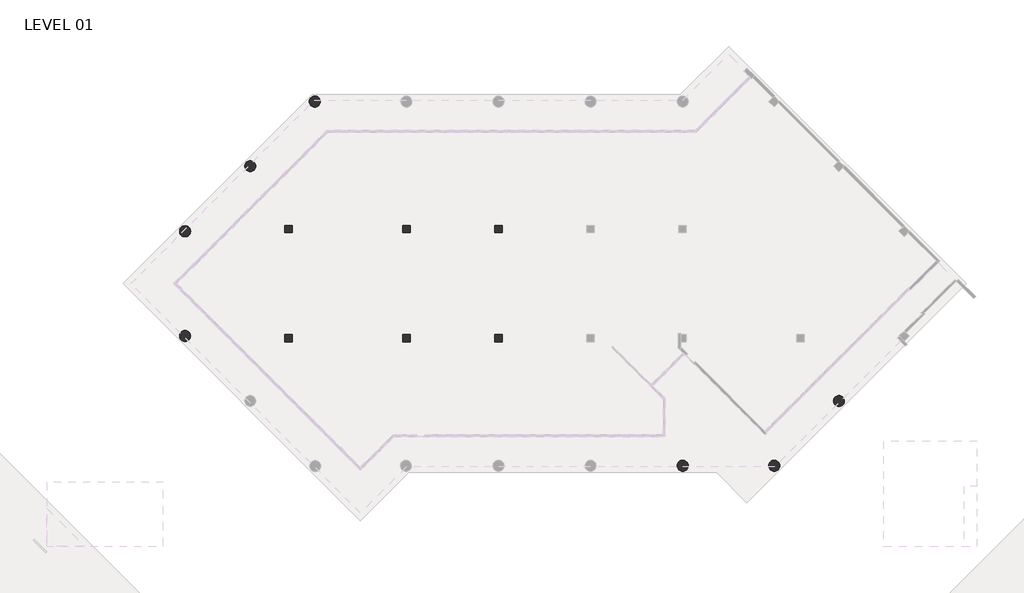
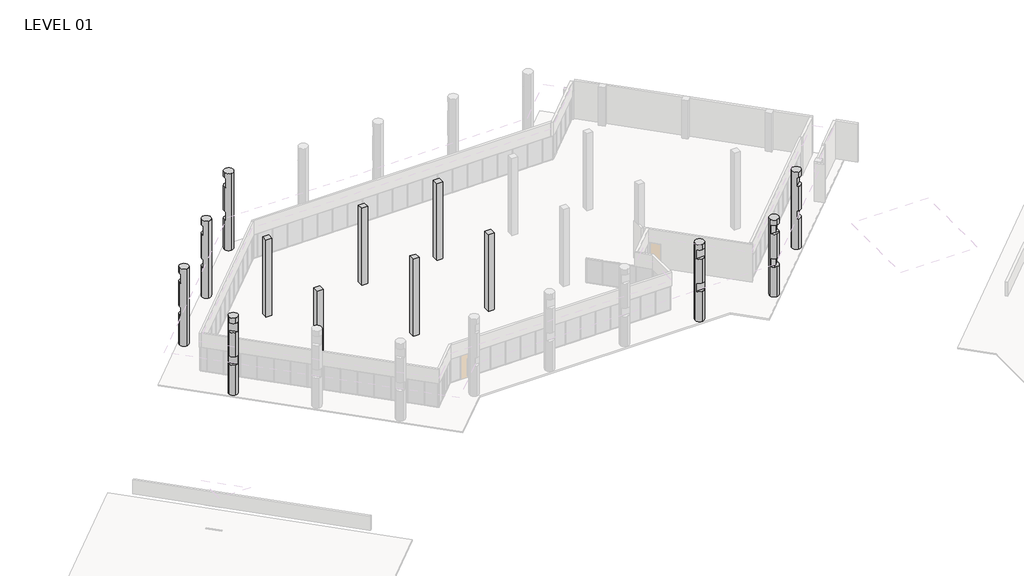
# One storey, part 23 of 24: 13 columns.
"""IFC4 building model written with IfcOpenShell, lengths in millimetres."""

from ifc_helpers import new_model, si_unit, frame, origin, place, context, project, spatial, circle_curve, transform, mapped, element, save
from ifc_brep_helpers import plane_surface, cylinder_surface, advanced_brep
from components import column_c64340cb

model = new_model("IFC4")

# Units and contexts
model_context = context("Model", 3, world=origin())
ifc_project = project(units=[si_unit("LENGTHUNIT", "METRE", prefix="MILLI")], contexts=[model_context])

# Site, building, storey
site = spatial("IfcSite", under=ifc_project)
building = spatial("IfcBuilding", under=site)
storey = spatial("IfcBuildingStorey", under=building, Name="LEVEL 01", Elevation=0.0)

# Columns
placement = place(None, origin())
column_shape = column_c64340cb(model_context)
element("IfcColumn", 1, ObjectType="Rectangular Column : 24\" x 24\"", at=placement, inside=storey, context=model_context, shape_type="MappedRepresentation", body=[
    mapped(column_shape, transform((8642.35, 109059.9023049, 0.0), x_axis=(-1.0, 0.0, 0.0), y_axis=(0.0, -1.0, 0.0), z_axis=(0.0, 0.0, 1.0))),
])
element("IfcColumn", 2, ObjectType="Rectangular Column : 24\" x 24\"", at=placement, inside=storey, context=model_context, shape_type="MappedRepresentation", body=[
    mapped(column_shape, transform((8642.35, 100023.8523049, 0.0), x_axis=(-1.0, 0.0, 0.0), y_axis=(0.0, -1.0, 0.0), z_axis=(0.0, 0.0, 1.0))),
])
element("IfcColumn", 3, ObjectType="Rectangular Column : 24\" x 24\"", at=placement, inside=storey, context=model_context, shape_type="MappedRepresentation", body=[
    mapped(column_shape, transform((18395.95, 109059.9023049, 0.0), x_axis=(-1.0, 0.0, 0.0), y_axis=(0.0, -1.0, 0.0), z_axis=(0.0, 0.0, 1.0))),
])
element("IfcColumn", 4, ObjectType="Rectangular Column : 24\" x 24\"", at=placement, inside=storey, context=model_context, shape_type="MappedRepresentation", body=[
    mapped(column_shape, transform((26015.95, 109059.9023049, 0.0), x_axis=(-1.0, 0.0, 0.0), y_axis=(0.0, -1.0, 0.0), z_axis=(0.0, 0.0, 1.0))),
])
element("IfcColumn", 5, ObjectType="Rectangular Column : 24\" x 24\"", at=placement, inside=storey, context=model_context, shape_type="MappedRepresentation", body=[
    mapped(column_shape, transform((26015.95, 100023.8523049, 0.0), x_axis=(-1.0, 0.0, 0.0), y_axis=(0.0, -1.0, 0.0), z_axis=(0.0, 0.0, 1.0))),
])
element("IfcColumn", 6, ObjectType="Rectangular Column : 24\" x 24\"", at=placement, inside=storey, context=model_context, shape_type="MappedRepresentation", body=[
    mapped(column_shape, transform((18395.95, 100023.8523049, 0.0), x_axis=(-1.0, 0.0, 0.0), y_axis=(0.0, -1.0, 0.0), z_axis=(0.0, 0.0, 1.0))),
])
element("IfcColumn", 7, ObjectType="Round Column : 36\" Diameter", at=placement, inside=storey, context=model_context, shape_type="AdvancedBrep", body=[
    advanced_brep(
    [(48376.6659021, 89457.4523049, 0.0), (49291.0659021, 89457.4523049, 0.0), (48833.8659021, 89000.2523049, 0.0), (48376.6659021, 89457.4523049, 8280.4), (49291.0659021, 89457.4523049, 8280.4), (49291.0659021, 89457.4523049, 7721.6), (49246.4289755, 89654.4892315, 7721.6), (49246.4289755, 89654.4892315, 6731.0), (49291.0659021, 89457.4523049, 6731.0), (49291.0659021, 89457.4523049, 4140.2), (49246.4289755, 89654.4892315, 4140.2), (49246.4289755, 89654.4892315, 3225.8), (49291.0659021, 89457.4523049, 3225.8), (49157.1551224, 89134.1630846, 3225.8), (48833.8659021, 89000.2523049, 3225.8), (48636.8289755, 89044.8892315, 3225.8), (48402.8136083, 89305.0523049, 3225.8), (48402.8136083, 89305.0523049, 4140.2), (48636.8289755, 89044.8892315, 4140.2), (48833.8659021, 89000.2523049, 4140.2), (48833.8659021, 89000.2523049, 6731.0), (48402.8136083, 89305.0523049, 6731.0), (48402.8136083, 89305.0523049, 7721.6), (48833.8659021, 89000.2523049, 7721.6), (48833.8659021, 89000.2523049, 8280.4), (48896.992049, 89305.0523049, 6731.0), (49264.9181959, 89305.0523049, 6731.0), (49264.9181959, 89305.0523049, 7721.6), (48896.992049, 89305.0523049, 7721.6), (49157.1551224, 89134.1630846, 6731.0), (49157.1551224, 89134.1630846, 7721.6), (48896.992049, 89305.0523049, 4140.2), (48896.992049, 89305.0523049, 3225.8), (49157.1551224, 89134.1630846, 4140.2)],
    [
        (0, 1, circle_curve(frame((48833.8659021, 89457.4523049, 0.0), z_axis=(0.0, 0.0, -1.0), x_axis=(-1.0, 0.0, 0.0)), 457.2)),
        (1, 2, circle_curve(frame((48833.8659021, 89457.4523049, 0.0), z_axis=(0.0, 0.0, -1.0), x_axis=(-1.0, 0.0, 0.0)), 457.2)),
        (2, 0, circle_curve(frame((48833.8659021, 89457.4523049, 0.0), z_axis=(0.0, 0.0, -1.0), x_axis=(-1.0, 0.0, 0.0)), 457.2)),
        (0, 3),
        (3, 4, circle_curve(frame((48833.8659021, 89457.4523049, 8280.4), z_axis=(0.0, 0.0, -1.0), x_axis=(-1.0, 0.0, 0.0)), 457.2)),
        (4, 5),
        (5, 6, circle_curve(frame((48833.8659021, 89457.4523049, 7721.6), z_axis=(0.0, 0.0, 1.0), x_axis=(-1.0, 0.0, 0.0)), 457.2)),
        (6, 7),
        (7, 8, circle_curve(frame((48833.8659021, 89457.4523049, 6731.0), z_axis=(0.0, 0.0, -1.0), x_axis=(-1.0, 0.0, 0.0)), 457.2)),
        (8, 9),
        (9, 10, circle_curve(frame((48833.8659021, 89457.4523049, 4140.2), z_axis=(0.0, 0.0, 1.0), x_axis=(-1.0, 0.0, 0.0)), 457.2)),
        (10, 11),
        (11, 12, circle_curve(frame((48833.8659021, 89457.4523049, 3225.8), z_axis=(0.0, 0.0, -1.0), x_axis=(-1.0, 0.0, 0.0)), 457.2)),
        (12, 1),
        (12, 13, circle_curve(frame((48833.8659021, 89457.4523049, 3225.8), z_axis=(0.0, 0.0, -1.0), x_axis=(-1.0, 0.0, 0.0)), 457.2)),
        (13, 14, circle_curve(frame((48833.8659021, 89457.4523049, 3225.8), z_axis=(0.0, 0.0, -1.0), x_axis=(-1.0, 0.0, 0.0)), 457.2)),
        (14, 2),
        (14, 15, circle_curve(frame((48833.8659021, 89457.4523049, 3225.8), z_axis=(0.0, 0.0, -1.0), x_axis=(-1.0, 0.0, 0.0)), 457.2)),
        (15, 16, circle_curve(frame((48833.8659021, 89457.4523049, 3225.8), z_axis=(0.0, 0.0, -1.0), x_axis=(-1.0, 0.0, 0.0)), 457.2)),
        (16, 17),
        (17, 18, circle_curve(frame((48833.8659021, 89457.4523049, 4140.2), z_axis=(0.0, 0.0, 1.0), x_axis=(-1.0, 0.0, 0.0)), 457.2)),
        (18, 19, circle_curve(frame((48833.8659021, 89457.4523049, 4140.2), z_axis=(0.0, 0.0, 1.0), x_axis=(-1.0, 0.0, 0.0)), 457.2)),
        (19, 20),
        (20, 21, circle_curve(frame((48833.8659021, 89457.4523049, 6731.0), z_axis=(0.0, 0.0, -1.0), x_axis=(-1.0, 0.0, 0.0)), 457.2)),
        (21, 22),
        (22, 23, circle_curve(frame((48833.8659021, 89457.4523049, 7721.6), z_axis=(0.0, 0.0, 1.0), x_axis=(-1.0, 0.0, 0.0)), 457.2)),
        (23, 24),
        (24, 3, circle_curve(frame((48833.8659021, 89457.4523049, 8280.4), z_axis=(0.0, 0.0, -1.0), x_axis=(-1.0, 0.0, 0.0)), 457.2)),
        (24, 4, circle_curve(frame((48833.8659021, 89457.4523049, 8280.4), z_axis=(0.0, 0.0, 1.0), x_axis=(-1.0, 0.0, 0.0)), 457.2)),
        (7, 25),
        (25, 26),
        (26, 8, circle_curve(frame((48833.8659021, 89457.4523049, 6731.0), z_axis=(0.0, 0.0, 1.0), x_axis=(-1.0, 0.0, 0.0)), 457.2)),
        (5, 27, circle_curve(frame((48833.8659021, 89457.4523049, 7721.6), z_axis=(0.0, 0.0, -1.0), x_axis=(-1.0, 0.0, 0.0)), 457.2)),
        (27, 28),
        (28, 6),
        (21, 25),
        (25, 28),
        (28, 22),
        (29, 26, circle_curve(frame((48833.8659021, 89457.4523049, 6731.0), z_axis=(0.0, 0.0, 1.0), x_axis=(-1.0, 0.0, 0.0)), 457.2)),
        (20, 29, circle_curve(frame((48833.8659021, 89457.4523049, 6731.0), z_axis=(0.0, 0.0, 1.0), x_axis=(-1.0, 0.0, 0.0)), 457.2)),
        (27, 30, circle_curve(frame((48833.8659021, 89457.4523049, 7721.6), z_axis=(0.0, 0.0, -1.0), x_axis=(-1.0, 0.0, 0.0)), 457.2)),
        (30, 23, circle_curve(frame((48833.8659021, 89457.4523049, 7721.6), z_axis=(0.0, 0.0, -1.0), x_axis=(-1.0, 0.0, 0.0)), 457.2)),
        (10, 31),
        (31, 32),
        (32, 11),
        (32, 15),
        (9, 33, circle_curve(frame((48833.8659021, 89457.4523049, 4140.2), z_axis=(0.0, 0.0, -1.0), x_axis=(-1.0, 0.0, 0.0)), 457.2)),
        (33, 19, circle_curve(frame((48833.8659021, 89457.4523049, 4140.2), z_axis=(0.0, 0.0, -1.0), x_axis=(-1.0, 0.0, 0.0)), 457.2)),
        (18, 31),
        (31, 17),
        (16, 32),
    ],
    [
        plane_surface(frame((48376.6659021, 89457.4523049, 0.0), z_axis=(0.0, 0.0, -1.0), x_axis=(0.0, 1.0, 0.0))),
        cylinder_surface(frame((48833.8659021, 89457.4523049, 0.0), z_axis=(0.0, 0.0, 1.0), x_axis=(-1.0, 0.0, 0.0)), 457.2),
        plane_surface(frame((48376.6659021, 89457.4523049, 8280.4), z_axis=(0.0, 0.0, 1.0), x_axis=(0.0, -1.0, 0.0))),
        plane_surface(frame((64241.5801224, 104649.6403784, 6731.0), z_axis=(0.0, 0.0, 1.0000000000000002), x_axis=(0.7071067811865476, -0.7071067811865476, 0.0))),
        plane_surface(frame((48852.3551224, 89260.4153784, 7721.6), z_axis=(0.0, 0.0, -1.0000000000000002), x_axis=(0.7071067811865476, -0.7071067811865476, 0.0))),
        plane_surface(frame((44118.4383763, 89305.0523049, 6731.0), z_axis=(0.0, -1.0, 0.0), x_axis=(-1.0, 0.0, 0.0))),
        plane_surface(frame((48960.1181959, 89305.0523049, 6731.0), z_axis=(0.0, 0.0, 1.0), x_axis=(0.0, -1.0, 0.0))),
        plane_surface(frame((18480.1181959, 89305.0523049, 7721.6), z_axis=(0.0, 0.0, -1.0), x_axis=(0.0, -1.0, 0.0))),
        plane_surface(frame((52584.04029, 92992.1005459, 3225.8), z_axis=(0.707106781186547, -0.7071067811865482, 0.0), x_axis=(-0.7071067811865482, -0.707106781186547, 0.0))),
        plane_surface(frame((59400.4528286, 99808.5130846, 3225.8), z_axis=(0.0, 0.0, 1.0000000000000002), x_axis=(0.7071067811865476, -0.7071067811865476, 0.0))),
        plane_surface(frame((46463.0782861, 86871.1385421, 4140.2), z_axis=(0.0, 0.0, -1.0000000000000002), x_axis=(0.7071067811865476, -0.7071067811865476, 0.0))),
        plane_surface(frame((44118.4383763, 89305.0523049, 3225.8), z_axis=(0.0, -1.0, 0.0), x_axis=(-1.0, 0.0, 0.0))),
        plane_surface(frame((48960.1181959, 89305.0523049, 3225.8), z_axis=(0.0, 0.0, 1.0), x_axis=(0.0, -1.0, 0.0))),
        plane_surface(frame((18480.1181959, 89305.0523049, 4140.2), z_axis=(0.0, 0.0, -1.0), x_axis=(0.0, -1.0, 0.0))),
        plane_surface(frame((64239.4011469, 104647.4614029, 6731.0), z_axis=(0.7071067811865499, -0.7071067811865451, 0.0), x_axis=(-0.7071067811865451, -0.7071067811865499, 0.0))),
    ],
    [
        (0, [[1, 2, 3]]),
        (1, [[-1, 4, 5, 6, 7, 8, 9, 10, 11, 12, 13, 14]]),
        (1, [[-2, -14, 15, 16, 17]]),
        (1, [[-3, -17, 18, 19, 20, 21, 22, 23, 24, 25, 26, 27, 28, -4]]),
        (2, [[-5, -28, 29]]),
        (3, [[-9, 30, 31, 32]]),
        (4, [[-7, 33, 34, 35]]),
        (5, [[-25, 36, 37, 38]]),
        (6, [[39, -31, -36, -24, 40]]),
        (7, [[41, 42, -26, -38, -34]]),
        (1, [[-29, -27, -42, -41, -33, -6]]),
        (8, [[-12, 43, 44, 45]]),
        (9, [[-13, -45, 46, -18, -16, -15]]),
        (10, [[-11, 47, 48, -22, 49, -43]]),
        (1, [[-32, -39, -40, -23, -48, -47, -10]]),
        (11, [[50, -20, 51, -44]]),
        (12, [[-51, -19, -46]]),
        (13, [[-50, -49, -21]]),
        (14, [[-35, -37, -30, -8]]),
    ],
),
])
element("IfcColumn", 8, ObjectType="Round Column : 36\" Diameter", at=placement, inside=storey, context=model_context, shape_type="AdvancedBrep", body=[
    advanced_brep(
    [(40798.75, 89457.4523049, 0.0), (41713.15, 89457.4523049, 0.0), (41255.95, 89000.2523049, 0.0), (40798.75, 89457.4523049, 8280.4), (41713.15, 89457.4523049, 8280.4), (41255.95, 89000.2523049, 8280.4), (41255.95, 89000.2523049, 7721.6), (41687.0022938, 89305.0523049, 7721.6), (41687.0022938, 89305.0523049, 6731.0), (41255.95, 89000.2523049, 6731.0), (41255.95, 89000.2523049, 4140.2), (41687.0022938, 89305.0523049, 4140.2), (41687.0022938, 89305.0523049, 3225.8), (41255.95, 89000.2523049, 3225.8), (40824.8977062, 89305.0523049, 3225.8), (40824.8977062, 89305.0523049, 4140.2), (40824.8977062, 89305.0523049, 6731.0), (40824.8977062, 89305.0523049, 7721.6)],
    [
        (0, 1, circle_curve(frame((41255.95, 89457.4523049, 0.0), z_axis=(0.0, 0.0, -1.0), x_axis=(-1.0, 0.0, 0.0)), 457.2)),
        (1, 2, circle_curve(frame((41255.95, 89457.4523049, 0.0), z_axis=(0.0, 0.0, -1.0), x_axis=(-1.0, 0.0, 0.0)), 457.2)),
        (2, 0, circle_curve(frame((41255.95, 89457.4523049, 0.0), z_axis=(0.0, 0.0, -1.0), x_axis=(-1.0, 0.0, 0.0)), 457.2)),
        (0, 3),
        (3, 4, circle_curve(frame((41255.95, 89457.4523049, 8280.4), z_axis=(0.0, 0.0, -1.0), x_axis=(-1.0, 0.0, 0.0)), 457.2)),
        (4, 1),
        (4, 5, circle_curve(frame((41255.95, 89457.4523049, 8280.4), z_axis=(0.0, 0.0, -1.0), x_axis=(-1.0, 0.0, 0.0)), 457.2)),
        (5, 6),
        (6, 7, circle_curve(frame((41255.95, 89457.4523049, 7721.6), z_axis=(0.0, 0.0, 1.0), x_axis=(-1.0, 0.0, 0.0)), 457.2)),
        (7, 8),
        (8, 9, circle_curve(frame((41255.95, 89457.4523049, 6731.0), z_axis=(0.0, 0.0, -1.0), x_axis=(-1.0, 0.0, 0.0)), 457.2)),
        (9, 10),
        (10, 11, circle_curve(frame((41255.95, 89457.4523049, 4140.2), z_axis=(0.0, 0.0, 1.0), x_axis=(-1.0, 0.0, 0.0)), 457.2)),
        (11, 12),
        (12, 13, circle_curve(frame((41255.95, 89457.4523049, 3225.8), z_axis=(0.0, 0.0, -1.0), x_axis=(-1.0, 0.0, 0.0)), 457.2)),
        (13, 2),
        (13, 14, circle_curve(frame((41255.95, 89457.4523049, 3225.8), z_axis=(0.0, 0.0, -1.0), x_axis=(-1.0, 0.0, 0.0)), 457.2)),
        (14, 15),
        (15, 10, circle_curve(frame((41255.95, 89457.4523049, 4140.2), z_axis=(0.0, 0.0, 1.0), x_axis=(-1.0, 0.0, 0.0)), 457.2)),
        (9, 16, circle_curve(frame((41255.95, 89457.4523049, 6731.0), z_axis=(0.0, 0.0, -1.0), x_axis=(-1.0, 0.0, 0.0)), 457.2)),
        (16, 17),
        (17, 6, circle_curve(frame((41255.95, 89457.4523049, 7721.6), z_axis=(0.0, 0.0, 1.0), x_axis=(-1.0, 0.0, 0.0)), 457.2)),
        (5, 3, circle_curve(frame((41255.95, 89457.4523049, 8280.4), z_axis=(0.0, 0.0, -1.0), x_axis=(-1.0, 0.0, 0.0)), 457.2)),
        (11, 15),
        (14, 12),
        (7, 17),
        (16, 8),
    ],
    [
        plane_surface(frame((40798.75, 89457.4523049, 0.0), z_axis=(0.0, 0.0, -1.0), x_axis=(0.0, 1.0, 0.0))),
        cylinder_surface(frame((41255.95, 89457.4523049, 0.0), z_axis=(0.0, 0.0, 1.0), x_axis=(-1.0, 0.0, 0.0)), 457.2),
        plane_surface(frame((40798.75, 89457.4523049, 8280.4), z_axis=(0.0, 0.0, 1.0), x_axis=(0.0, -1.0, 0.0))),
        plane_surface(frame((44118.4383763, 89305.0523049, 3225.8), z_axis=(0.0, -1.0, 0.0), x_axis=(-1.0, 0.0, 0.0))),
        plane_surface(frame((48960.1181959, 89305.0523049, 3225.8), z_axis=(0.0, 0.0, 1.0), x_axis=(0.0, -1.0, 0.0))),
        plane_surface(frame((18480.1181959, 89305.0523049, 4140.2), z_axis=(0.0, 0.0, -1.0), x_axis=(0.0, -1.0, 0.0))),
        plane_surface(frame((44118.4383763, 89305.0523049, 6731.0), z_axis=(0.0, -1.0, 0.0), x_axis=(-1.0, 0.0, 0.0))),
        plane_surface(frame((48960.1181959, 89305.0523049, 6731.0), z_axis=(0.0, 0.0, 1.0), x_axis=(0.0, -1.0, 0.0))),
        plane_surface(frame((18480.1181959, 89305.0523049, 7721.6), z_axis=(0.0, 0.0, -1.0), x_axis=(0.0, -1.0, 0.0))),
    ],
    [
        (0, [[1, 2, 3]]),
        (1, [[-1, 4, 5, 6]]),
        (1, [[-2, -6, 7, 8, 9, 10, 11, 12, 13, 14, 15, 16]]),
        (1, [[-3, -16, 17, 18, 19, -12, 20, 21, 22, -8, 23, -4]]),
        (2, [[-5, -23, -7]]),
        (3, [[-14, 24, -18, 25]]),
        (4, [[-15, -25, -17]]),
        (5, [[-13, -19, -24]]),
        (6, [[26, -21, 27, -10]]),
        (7, [[-27, -20, -11]]),
        (8, [[-26, -9, -22]]),
    ],
),
])
element("IfcColumn", 9, ObjectType="Round Column : 36\" Diameter", at=placement, inside=storey, context=model_context, shape_type="AdvancedBrep", body=[
    advanced_brep(
    [(-385.357951, 100203.6443539, 0.0), (529.042049, 100203.6443539, 0.0), (71.842049, 99746.4443539, 0.0), (-385.357951, 100203.6443539, 3225.8), (-340.7210245, 100400.6812804, 3225.8), (-340.7210245, 100400.6812804, 4140.2), (-385.357951, 100203.6443539, 4140.2), (-385.357951, 100203.6443539, 6731.0), (-340.7210245, 100400.6812804, 6731.0), (-340.7210245, 100400.6812804, 7721.6), (-385.357951, 100203.6443539, 7721.6), (-385.357951, 100203.6443539, 8280.4), (529.042049, 100203.6443539, 8280.4), (71.842049, 99746.4443539, 8280.4), (71.842049, 99746.4443539, 7721.6), (268.8789755, 99791.0812804, 7721.6), (268.8789755, 99791.0812804, 6731.0), (71.842049, 99746.4443539, 6731.0), (71.842049, 99746.4443539, 4140.2), (268.8789755, 99791.0812804, 4140.2), (268.8789755, 99791.0812804, 3225.8), (71.842049, 99746.4443539, 3225.8), (-251.4471714, 99880.3551335, 3225.8), (-251.4471714, 99880.3551335, 6731.0), (-251.4471714, 99880.3551335, 7721.6), (-251.4471714, 99880.3551335, 4140.2)],
    [
        (0, 1, circle_curve(frame((71.842049, 100203.6443539, 0.0), z_axis=(0.0, 0.0, -1.0), x_axis=(-1.0, 0.0, 0.0)), 457.2)),
        (1, 2, circle_curve(frame((71.842049, 100203.6443539, 0.0), z_axis=(0.0, 0.0, -1.0), x_axis=(-1.0, 0.0, 0.0)), 457.2)),
        (2, 0, circle_curve(frame((71.842049, 100203.6443539, 0.0), z_axis=(0.0, 0.0, -1.0), x_axis=(-1.0, 0.0, 0.0)), 457.2)),
        (0, 3),
        (3, 4, circle_curve(frame((71.842049, 100203.6443539, 3225.8), z_axis=(0.0, 0.0, -1.0), x_axis=(-1.0, 0.0, 0.0)), 457.2)),
        (4, 5),
        (5, 6, circle_curve(frame((71.842049, 100203.6443539, 4140.2), z_axis=(0.0, 0.0, 1.0), x_axis=(-1.0, 0.0, 0.0)), 457.2)),
        (6, 7),
        (7, 8, circle_curve(frame((71.842049, 100203.6443539, 6731.0), z_axis=(0.0, 0.0, -1.0), x_axis=(-1.0, 0.0, 0.0)), 457.2)),
        (8, 9),
        (9, 10, circle_curve(frame((71.842049, 100203.6443539, 7721.6), z_axis=(0.0, 0.0, 1.0), x_axis=(-1.0, 0.0, 0.0)), 457.2)),
        (10, 11),
        (11, 12, circle_curve(frame((71.842049, 100203.6443539, 8280.4), z_axis=(0.0, 0.0, -1.0), x_axis=(-1.0, 0.0, 0.0)), 457.2)),
        (12, 1),
        (12, 13, circle_curve(frame((71.842049, 100203.6443539, 8280.4), z_axis=(0.0, 0.0, -1.0), x_axis=(-1.0, 0.0, 0.0)), 457.2)),
        (13, 14),
        (14, 15, circle_curve(frame((71.842049, 100203.6443539, 7721.6), z_axis=(0.0, 0.0, 1.0), x_axis=(-1.0, 0.0, 0.0)), 457.2)),
        (15, 16),
        (16, 17, circle_curve(frame((71.842049, 100203.6443539, 6731.0), z_axis=(0.0, 0.0, -1.0), x_axis=(-1.0, 0.0, 0.0)), 457.2)),
        (17, 18),
        (18, 19, circle_curve(frame((71.842049, 100203.6443539, 4140.2), z_axis=(0.0, 0.0, 1.0), x_axis=(-1.0, 0.0, 0.0)), 457.2)),
        (19, 20),
        (20, 21, circle_curve(frame((71.842049, 100203.6443539, 3225.8), z_axis=(0.0, 0.0, -1.0), x_axis=(-1.0, 0.0, 0.0)), 457.2)),
        (21, 2),
        (21, 22, circle_curve(frame((71.842049, 100203.6443539, 3225.8), z_axis=(0.0, 0.0, -1.0), x_axis=(-1.0, 0.0, 0.0)), 457.2)),
        (22, 3, circle_curve(frame((71.842049, 100203.6443539, 3225.8), z_axis=(0.0, 0.0, -1.0), x_axis=(-1.0, 0.0, 0.0)), 457.2)),
        (11, 13, circle_curve(frame((71.842049, 100203.6443539, 8280.4), z_axis=(0.0, 0.0, 1.0), x_axis=(-1.0, 0.0, 0.0)), 457.2)),
        (15, 9),
        (8, 16),
        (7, 23, circle_curve(frame((71.842049, 100203.6443539, 6731.0), z_axis=(0.0, 0.0, 1.0), x_axis=(-1.0, 0.0, 0.0)), 457.2)),
        (23, 17, circle_curve(frame((71.842049, 100203.6443539, 6731.0), z_axis=(0.0, 0.0, 1.0), x_axis=(-1.0, 0.0, 0.0)), 457.2)),
        (14, 24, circle_curve(frame((71.842049, 100203.6443539, 7721.6), z_axis=(0.0, 0.0, -1.0), x_axis=(-1.0, 0.0, 0.0)), 457.2)),
        (24, 10, circle_curve(frame((71.842049, 100203.6443539, 7721.6), z_axis=(0.0, 0.0, -1.0), x_axis=(-1.0, 0.0, 0.0)), 457.2)),
        (19, 5),
        (4, 20),
        (18, 25, circle_curve(frame((71.842049, 100203.6443539, 4140.2), z_axis=(0.0, 0.0, -1.0), x_axis=(-1.0, 0.0, 0.0)), 457.2)),
        (25, 6, circle_curve(frame((71.842049, 100203.6443539, 4140.2), z_axis=(0.0, 0.0, -1.0), x_axis=(-1.0, 0.0, 0.0)), 457.2)),
    ],
    [
        plane_surface(frame((-385.357951, 100203.6443539, 0.0), z_axis=(0.0, 0.0, -1.0), x_axis=(0.0, 1.0, 0.0))),
        cylinder_surface(frame((71.842049, 100203.6443539, 0.0), z_axis=(0.0, 0.0, 1.0), x_axis=(-1.0, 0.0, 0.0)), 457.2),
        plane_surface(frame((-385.357951, 100203.6443539, 8280.4), z_axis=(0.0, 0.0, 1.0), x_axis=(0.0, -1.0, 0.0))),
        plane_surface(frame((16685.9628061, 83373.9974499, 6731.0), z_axis=(-0.7071067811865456, -0.7071067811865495, 0.0), x_axis=(-0.7071067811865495, 0.7071067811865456, 0.0))),
        plane_surface(frame((14693.7130735, 85366.2471825, 6731.0), z_axis=(0.0, 0.0, 1.0000000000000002), x_axis=(-0.707106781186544, -0.7071067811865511, 0.0))),
        plane_surface(frame((-4589.6801224, 104649.6403784, 7721.6), z_axis=(0.0, 0.0, -1.0000000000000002), x_axis=(-0.707106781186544, -0.7071067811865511, 0.0))),
        plane_surface(frame((14801.4761469, 85258.484109, 3225.8), z_axis=(-0.7071067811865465, -0.7071067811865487, 0.0), x_axis=(-0.7071067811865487, 0.7071067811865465, 0.0))),
        plane_surface(frame((10955.5551224, 89104.4051335, 3225.8), z_axis=(0.0, 0.0, 1.0000000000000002), x_axis=(-0.707106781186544, -0.7071067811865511, 0.0))),
        plane_surface(frame((-4589.6801224, 104649.6403784, 4140.2), z_axis=(0.0, 0.0, -1.0000000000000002), x_axis=(-0.7071067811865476, -0.7071067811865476, 0.0))),
    ],
    [
        (0, [[1, 2, 3]]),
        (1, [[-1, 4, 5, 6, 7, 8, 9, 10, 11, 12, 13, 14]]),
        (1, [[-2, -14, 15, 16, 17, 18, 19, 20, 21, 22, 23, 24]]),
        (1, [[-3, -24, 25, 26, -4]]),
        (2, [[-13, 27, -15]]),
        (3, [[28, -10, 29, -18]]),
        (4, [[-9, 30, 31, -19, -29]]),
        (5, [[-11, -28, -17, 32, 33]]),
        (1, [[-27, -12, -33, -32, -16]]),
        (6, [[34, -6, 35, -22]]),
        (7, [[-35, -5, -26, -25, -23]]),
        (8, [[-34, -21, 36, 37, -7]]),
        (1, [[-31, -30, -8, -37, -36, -20]]),
    ],
),
])
element("IfcColumn", 10, ObjectType="Round Column : 36\" Diameter", at=placement, inside=storey, context=model_context, shape_type="AdvancedBrep", body=[
    advanced_brep(
    [(-385.357951, 108880.110256, 0.0), (529.042049, 108880.110256, 0.0), (71.842049, 108422.910256, 0.0), (-385.357951, 108880.110256, 3225.8), (-251.4471714, 109203.3994763, 3225.8), (268.8789755, 109292.6733294, 3225.8), (268.8789755, 109292.6733294, 4140.2), (-251.4471714, 109203.3994763, 4140.2), (-385.357951, 108880.110256, 4140.2), (-385.357951, 108880.110256, 6731.0), (-251.4471714, 109203.3994763, 6731.0), (268.8789755, 109292.6733294, 6731.0), (268.8789755, 109292.6733294, 7721.6), (-251.4471714, 109203.3994763, 7721.6), (-385.357951, 108880.110256, 7721.6), (-385.357951, 108880.110256, 8280.4), (529.042049, 108880.110256, 8280.4), (71.842049, 108422.910256, 8280.4), (-340.7210245, 108683.0733294, 7721.6), (-340.7210245, 108683.0733294, 6731.0), (-340.7210245, 108683.0733294, 4140.2), (-340.7210245, 108683.0733294, 3225.8)],
    [
        (0, 1, circle_curve(frame((71.842049, 108880.110256, 0.0), z_axis=(0.0, 0.0, -1.0), x_axis=(-1.0, 0.0, 0.0)), 457.2)),
        (1, 2, circle_curve(frame((71.842049, 108880.110256, 0.0), z_axis=(0.0, 0.0, -1.0), x_axis=(-1.0, 0.0, 0.0)), 457.2)),
        (2, 0, circle_curve(frame((71.842049, 108880.110256, 0.0), z_axis=(0.0, 0.0, -1.0), x_axis=(-1.0, 0.0, 0.0)), 457.2)),
        (0, 3),
        (3, 4, circle_curve(frame((71.842049, 108880.110256, 3225.8), z_axis=(0.0, 0.0, -1.0), x_axis=(-1.0, 0.0, 0.0)), 457.2)),
        (4, 5, circle_curve(frame((71.842049, 108880.110256, 3225.8), z_axis=(0.0, 0.0, -1.0), x_axis=(-1.0, 0.0, 0.0)), 457.2)),
        (5, 6),
        (6, 7, circle_curve(frame((71.842049, 108880.110256, 4140.2), z_axis=(0.0, 0.0, 1.0), x_axis=(-1.0, 0.0, 0.0)), 457.2)),
        (7, 8, circle_curve(frame((71.842049, 108880.110256, 4140.2), z_axis=(0.0, 0.0, 1.0), x_axis=(-1.0, 0.0, 0.0)), 457.2)),
        (8, 9),
        (9, 10, circle_curve(frame((71.842049, 108880.110256, 6731.0), z_axis=(0.0, 0.0, -1.0), x_axis=(-1.0, 0.0, 0.0)), 457.2)),
        (10, 11, circle_curve(frame((71.842049, 108880.110256, 6731.0), z_axis=(0.0, 0.0, -1.0), x_axis=(-1.0, 0.0, 0.0)), 457.2)),
        (11, 12),
        (12, 13, circle_curve(frame((71.842049, 108880.110256, 7721.6), z_axis=(0.0, 0.0, 1.0), x_axis=(-1.0, 0.0, 0.0)), 457.2)),
        (13, 14, circle_curve(frame((71.842049, 108880.110256, 7721.6), z_axis=(0.0, 0.0, 1.0), x_axis=(-1.0, 0.0, 0.0)), 457.2)),
        (14, 15),
        (15, 16, circle_curve(frame((71.842049, 108880.110256, 8280.4), z_axis=(0.0, 0.0, -1.0), x_axis=(-1.0, 0.0, 0.0)), 457.2)),
        (16, 1),
        (16, 17, circle_curve(frame((71.842049, 108880.110256, 8280.4), z_axis=(0.0, 0.0, -1.0), x_axis=(-1.0, 0.0, 0.0)), 457.2)),
        (17, 2),
        (17, 15, circle_curve(frame((71.842049, 108880.110256, 8280.4), z_axis=(0.0, 0.0, -1.0), x_axis=(-1.0, 0.0, 0.0)), 457.2)),
        (14, 18, circle_curve(frame((71.842049, 108880.110256, 7721.6), z_axis=(0.0, 0.0, 1.0), x_axis=(-1.0, 0.0, 0.0)), 457.2)),
        (18, 19),
        (19, 9, circle_curve(frame((71.842049, 108880.110256, 6731.0), z_axis=(0.0, 0.0, -1.0), x_axis=(-1.0, 0.0, 0.0)), 457.2)),
        (8, 20, circle_curve(frame((71.842049, 108880.110256, 4140.2), z_axis=(0.0, 0.0, 1.0), x_axis=(-1.0, 0.0, 0.0)), 457.2)),
        (20, 21),
        (21, 3, circle_curve(frame((71.842049, 108880.110256, 3225.8), z_axis=(0.0, 0.0, -1.0), x_axis=(-1.0, 0.0, 0.0)), 457.2)),
        (5, 21),
        (20, 6),
        (18, 12),
        (11, 19),
    ],
    [
        plane_surface(frame((-385.357951, 108880.110256, 0.0), z_axis=(0.0, 0.0, -1.0), x_axis=(0.0, 1.0, 0.0))),
        cylinder_surface(frame((71.842049, 108880.110256, 0.0), z_axis=(0.0, 0.0, 1.0), x_axis=(-1.0, 0.0, 0.0)), 457.2),
        plane_surface(frame((-385.357951, 108880.110256, 8280.4), z_axis=(0.0, 0.0, 1.0), x_axis=(0.0, -1.0, 0.0))),
        plane_surface(frame((-4769.2852448, 104254.509109, 3225.8), z_axis=(-0.7071067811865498, 0.7071067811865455, 0.0), x_axis=(0.7071067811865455, 0.7071067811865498, 0.0))),
        plane_surface(frame((-4589.6801224, 104434.1142315, 3225.8), z_axis=(0.0, 0.0, 1.0000000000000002), x_axis=(-0.7071067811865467, 0.7071067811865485, 0.0))),
        plane_surface(frame((10799.5448776, 119823.3392315, 4140.2), z_axis=(0.0, 0.0, -1.0000000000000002), x_axis=(-0.707106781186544, 0.7071067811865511, 0.0))),
        plane_surface(frame((-4769.2852448, 104254.509109, 6731.0), z_axis=(-0.7071067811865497, 0.7071067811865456, 0.0), x_axis=(0.7071067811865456, 0.7071067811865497, 0.0))),
        plane_surface(frame((-4589.6801224, 104434.1142315, 6731.0), z_axis=(0.0, 0.0, 1.0000000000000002), x_axis=(-0.7071067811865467, 0.7071067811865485, 0.0))),
        plane_surface(frame((10799.5448776, 119823.3392315, 7721.6), z_axis=(0.0, 0.0, -1.0000000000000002), x_axis=(-0.7071067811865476, 0.7071067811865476, 0.0))),
    ],
    [
        (0, [[1, 2, 3]]),
        (1, [[-1, 4, 5, 6, 7, 8, 9, 10, 11, 12, 13, 14, 15, 16, 17, 18]]),
        (1, [[-2, -18, 19, 20]]),
        (1, [[-3, -20, 21, -16, 22, 23, 24, -10, 25, 26, 27, -4]]),
        (2, [[-17, -21, -19]]),
        (3, [[-7, 28, -26, 29]]),
        (4, [[-5, -27, -28, -6]]),
        (5, [[-9, -8, -29, -25]]),
        (6, [[30, -13, 31, -23]]),
        (7, [[-31, -12, -11, -24]]),
        (8, [[-30, -22, -15, -14]]),
    ],
),
])
element("IfcColumn", 11, ObjectType="Round Column : 36\" Diameter", at=placement, inside=storey, context=model_context, shape_type="AdvancedBrep", body=[
    advanced_brep(
    [(5002.617049, 114268.085256, 0.0), (5917.017049, 114268.085256, 0.0), (5459.817049, 113810.885256, 0.0), (5002.617049, 114268.085256, 3225.8), (5136.5278286, 114591.3744763, 3225.8), (5656.8539755, 114680.6483294, 3225.8), (5656.8539755, 114680.6483294, 4140.2), (5136.5278286, 114591.3744763, 4140.2), (5002.617049, 114268.085256, 4140.2), (5002.617049, 114268.085256, 6731.0), (5136.5278286, 114591.3744763, 6731.0), (5656.8539755, 114680.6483294, 6731.0), (5656.8539755, 114680.6483294, 7721.6), (5136.5278286, 114591.3744763, 7721.6), (5002.617049, 114268.085256, 7721.6), (5002.617049, 114268.085256, 8280.4), (5917.017049, 114268.085256, 8280.4), (5459.817049, 113810.885256, 8280.4), (5047.2539755, 114071.0483294, 7721.6), (5047.2539755, 114071.0483294, 6731.0), (5047.2539755, 114071.0483294, 4140.2), (5047.2539755, 114071.0483294, 3225.8)],
    [
        (0, 1, circle_curve(frame((5459.817049, 114268.085256, 0.0), z_axis=(0.0, 0.0, -1.0), x_axis=(-1.0, 0.0, 0.0)), 457.2)),
        (1, 2, circle_curve(frame((5459.817049, 114268.085256, 0.0), z_axis=(0.0, 0.0, -1.0), x_axis=(-1.0, 0.0, 0.0)), 457.2)),
        (2, 0, circle_curve(frame((5459.817049, 114268.085256, 0.0), z_axis=(0.0, 0.0, -1.0), x_axis=(-1.0, 0.0, 0.0)), 457.2)),
        (0, 3),
        (3, 4, circle_curve(frame((5459.817049, 114268.085256, 3225.8), z_axis=(0.0, 0.0, -1.0), x_axis=(-1.0, 0.0, 0.0)), 457.2)),
        (4, 5, circle_curve(frame((5459.817049, 114268.085256, 3225.8), z_axis=(0.0, 0.0, -1.0), x_axis=(-1.0, 0.0, 0.0)), 457.2)),
        (5, 6),
        (6, 7, circle_curve(frame((5459.817049, 114268.085256, 4140.2), z_axis=(0.0, 0.0, 1.0), x_axis=(-1.0, 0.0, 0.0)), 457.2)),
        (7, 8, circle_curve(frame((5459.817049, 114268.085256, 4140.2), z_axis=(0.0, 0.0, 1.0), x_axis=(-1.0, 0.0, 0.0)), 457.2)),
        (8, 9),
        (9, 10, circle_curve(frame((5459.817049, 114268.085256, 6731.0), z_axis=(0.0, 0.0, -1.0), x_axis=(-1.0, 0.0, 0.0)), 457.2)),
        (10, 11, circle_curve(frame((5459.817049, 114268.085256, 6731.0), z_axis=(0.0, 0.0, -1.0), x_axis=(-1.0, 0.0, 0.0)), 457.2)),
        (11, 12),
        (12, 13, circle_curve(frame((5459.817049, 114268.085256, 7721.6), z_axis=(0.0, 0.0, 1.0), x_axis=(-1.0, 0.0, 0.0)), 457.2)),
        (13, 14, circle_curve(frame((5459.817049, 114268.085256, 7721.6), z_axis=(0.0, 0.0, 1.0), x_axis=(-1.0, 0.0, 0.0)), 457.2)),
        (14, 15),
        (15, 16, circle_curve(frame((5459.817049, 114268.085256, 8280.4), z_axis=(0.0, 0.0, -1.0), x_axis=(-1.0, 0.0, 0.0)), 457.2)),
        (16, 1),
        (16, 17, circle_curve(frame((5459.817049, 114268.085256, 8280.4), z_axis=(0.0, 0.0, -1.0), x_axis=(-1.0, 0.0, 0.0)), 457.2)),
        (17, 2),
        (17, 15, circle_curve(frame((5459.817049, 114268.085256, 8280.4), z_axis=(0.0, 0.0, -1.0), x_axis=(-1.0, 0.0, 0.0)), 457.2)),
        (14, 18, circle_curve(frame((5459.817049, 114268.085256, 7721.6), z_axis=(0.0, 0.0, 1.0), x_axis=(-1.0, 0.0, 0.0)), 457.2)),
        (18, 19),
        (19, 9, circle_curve(frame((5459.817049, 114268.085256, 6731.0), z_axis=(0.0, 0.0, -1.0), x_axis=(-1.0, 0.0, 0.0)), 457.2)),
        (8, 20, circle_curve(frame((5459.817049, 114268.085256, 4140.2), z_axis=(0.0, 0.0, 1.0), x_axis=(-1.0, 0.0, 0.0)), 457.2)),
        (20, 21),
        (21, 3, circle_curve(frame((5459.817049, 114268.085256, 3225.8), z_axis=(0.0, 0.0, -1.0), x_axis=(-1.0, 0.0, 0.0)), 457.2)),
        (5, 21),
        (20, 6),
        (18, 12),
        (11, 19),
    ],
    [
        plane_surface(frame((5002.617049, 114268.085256, 0.0), z_axis=(0.0, 0.0, -1.0), x_axis=(0.0, 1.0, 0.0))),
        cylinder_surface(frame((5459.817049, 114268.085256, 0.0), z_axis=(0.0, 0.0, 1.0), x_axis=(-1.0, 0.0, 0.0)), 457.2),
        plane_surface(frame((5002.617049, 114268.085256, 8280.4), z_axis=(0.0, 0.0, 1.0), x_axis=(0.0, -1.0, 0.0))),
        plane_surface(frame((-4769.2852448, 104254.509109, 3225.8), z_axis=(-0.7071067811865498, 0.7071067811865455, 0.0), x_axis=(0.7071067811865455, 0.7071067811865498, 0.0))),
        plane_surface(frame((-4589.6801224, 104434.1142315, 3225.8), z_axis=(0.0, 0.0, 1.0000000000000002), x_axis=(-0.7071067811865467, 0.7071067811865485, 0.0))),
        plane_surface(frame((10799.5448776, 119823.3392315, 4140.2), z_axis=(0.0, 0.0, -1.0000000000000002), x_axis=(-0.707106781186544, 0.7071067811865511, 0.0))),
        plane_surface(frame((-4769.2852448, 104254.509109, 6731.0), z_axis=(-0.7071067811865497, 0.7071067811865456, 0.0), x_axis=(0.7071067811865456, 0.7071067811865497, 0.0))),
        plane_surface(frame((-4589.6801224, 104434.1142315, 6731.0), z_axis=(0.0, 0.0, 1.0000000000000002), x_axis=(-0.7071067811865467, 0.7071067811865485, 0.0))),
        plane_surface(frame((10799.5448776, 119823.3392315, 7721.6), z_axis=(0.0, 0.0, -1.0000000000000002), x_axis=(-0.7071067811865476, 0.7071067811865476, 0.0))),
    ],
    [
        (0, [[1, 2, 3]]),
        (1, [[-1, 4, 5, 6, 7, 8, 9, 10, 11, 12, 13, 14, 15, 16, 17, 18]]),
        (1, [[-2, -18, 19, 20]]),
        (1, [[-3, -20, 21, -16, 22, 23, 24, -10, 25, 26, 27, -4]]),
        (2, [[-17, -21, -19]]),
        (3, [[-7, 28, -26, 29]]),
        (4, [[-5, -27, -28, -6]]),
        (5, [[-9, -8, -29, -25]]),
        (6, [[30, -13, 31, -23]]),
        (7, [[-31, -12, -11, -24]]),
        (8, [[-30, -22, -15, -14]]),
    ],
),
])
element("IfcColumn", 12, ObjectType="Round Column : 36\" Diameter", at=placement, inside=storey, context=model_context, shape_type="AdvancedBrep", body=[
    advanced_brep(
    [(10360.8340979, 119626.3023049, 0.0), (11275.2340979, 119626.3023049, 0.0), (10818.0340979, 119169.1023049, 0.0), (10360.8340979, 119626.3023049, 3225.8), (10494.7448776, 119949.5915253, 3225.8), (10818.0340979, 120083.5023049, 3225.8), (11015.0710245, 120038.8653784, 3225.8), (11249.0863917, 119778.7023049, 3225.8), (11249.0863917, 119778.7023049, 4140.2), (11015.0710245, 120038.8653784, 4140.2), (10818.0340979, 120083.5023049, 4140.2), (10494.7448776, 119949.5915253, 4140.2), (10360.8340979, 119626.3023049, 4140.2), (10360.8340979, 119626.3023049, 6731.0), (10494.7448776, 119949.5915253, 6731.0), (10818.0340979, 120083.5023049, 6731.0), (11015.0710245, 120038.8653784, 6731.0), (11249.0863917, 119778.7023049, 6731.0), (11249.0863917, 119778.7023049, 7721.6), (11015.0710245, 120038.8653784, 7721.6), (10818.0340979, 120083.5023049, 7721.6), (10494.7448776, 119949.5915253, 7721.6), (10360.8340979, 119626.3023049, 7721.6), (10360.8340979, 119626.3023049, 8280.4), (11275.2340979, 119626.3023049, 8280.4), (10818.0340979, 119169.1023049, 8280.4), (10405.4710245, 119429.2653784, 7721.6), (10405.4710245, 119429.2653784, 6731.0), (10405.4710245, 119429.2653784, 4140.2), (10405.4710245, 119429.2653784, 3225.8), (10754.907951, 119778.7023049, 4140.2), (10754.907951, 119778.7023049, 3225.8), (10754.907951, 119778.7023049, 7721.6), (10754.907951, 119778.7023049, 6731.0)],
    [
        (0, 1, circle_curve(frame((10818.0340979, 119626.3023049, 0.0), z_axis=(0.0, 0.0, -1.0), x_axis=(-1.0, 0.0, 0.0)), 457.2)),
        (1, 2, circle_curve(frame((10818.0340979, 119626.3023049, 0.0), z_axis=(0.0, 0.0, -1.0), x_axis=(-1.0, 0.0, 0.0)), 457.2)),
        (2, 0, circle_curve(frame((10818.0340979, 119626.3023049, 0.0), z_axis=(0.0, 0.0, -1.0), x_axis=(-1.0, 0.0, 0.0)), 457.2)),
        (0, 3),
        (3, 4, circle_curve(frame((10818.0340979, 119626.3023049, 3225.8), z_axis=(0.0, 0.0, -1.0), x_axis=(-1.0, 0.0, 0.0)), 457.2)),
        (4, 5, circle_curve(frame((10818.0340979, 119626.3023049, 3225.8), z_axis=(0.0, 0.0, -1.0), x_axis=(-1.0, 0.0, 0.0)), 457.2)),
        (5, 6, circle_curve(frame((10818.0340979, 119626.3023049, 3225.8), z_axis=(0.0, 0.0, -1.0), x_axis=(-1.0, 0.0, 0.0)), 457.2)),
        (6, 7, circle_curve(frame((10818.0340979, 119626.3023049, 3225.8), z_axis=(0.0, 0.0, -1.0), x_axis=(-1.0, 0.0, 0.0)), 457.2)),
        (7, 8),
        (8, 9, circle_curve(frame((10818.0340979, 119626.3023049, 4140.2), z_axis=(0.0, 0.0, 1.0), x_axis=(-1.0, 0.0, 0.0)), 457.2)),
        (9, 10, circle_curve(frame((10818.0340979, 119626.3023049, 4140.2), z_axis=(0.0, 0.0, 1.0), x_axis=(-1.0, 0.0, 0.0)), 457.2)),
        (10, 11, circle_curve(frame((10818.0340979, 119626.3023049, 4140.2), z_axis=(0.0, 0.0, 1.0), x_axis=(-1.0, 0.0, 0.0)), 457.2)),
        (11, 12, circle_curve(frame((10818.0340979, 119626.3023049, 4140.2), z_axis=(0.0, 0.0, 1.0), x_axis=(-1.0, 0.0, 0.0)), 457.2)),
        (12, 13),
        (13, 14, circle_curve(frame((10818.0340979, 119626.3023049, 6731.0), z_axis=(0.0, 0.0, -1.0), x_axis=(-1.0, 0.0, 0.0)), 457.2)),
        (14, 15, circle_curve(frame((10818.0340979, 119626.3023049, 6731.0), z_axis=(0.0, 0.0, -1.0), x_axis=(-1.0, 0.0, 0.0)), 457.2)),
        (15, 16, circle_curve(frame((10818.0340979, 119626.3023049, 6731.0), z_axis=(0.0, 0.0, -1.0), x_axis=(-1.0, 0.0, 0.0)), 457.2)),
        (16, 17, circle_curve(frame((10818.0340979, 119626.3023049, 6731.0), z_axis=(0.0, 0.0, -1.0), x_axis=(-1.0, 0.0, 0.0)), 457.2)),
        (17, 18),
        (18, 19, circle_curve(frame((10818.0340979, 119626.3023049, 7721.6), z_axis=(0.0, 0.0, 1.0), x_axis=(-1.0, 0.0, 0.0)), 457.2)),
        (19, 20, circle_curve(frame((10818.0340979, 119626.3023049, 7721.6), z_axis=(0.0, 0.0, 1.0), x_axis=(-1.0, 0.0, 0.0)), 457.2)),
        (20, 21, circle_curve(frame((10818.0340979, 119626.3023049, 7721.6), z_axis=(0.0, 0.0, 1.0), x_axis=(-1.0, 0.0, 0.0)), 457.2)),
        (21, 22, circle_curve(frame((10818.0340979, 119626.3023049, 7721.6), z_axis=(0.0, 0.0, 1.0), x_axis=(-1.0, 0.0, 0.0)), 457.2)),
        (22, 23),
        (23, 24, circle_curve(frame((10818.0340979, 119626.3023049, 8280.4), z_axis=(0.0, 0.0, -1.0), x_axis=(-1.0, 0.0, 0.0)), 457.2)),
        (24, 1),
        (24, 25, circle_curve(frame((10818.0340979, 119626.3023049, 8280.4), z_axis=(0.0, 0.0, -1.0), x_axis=(-1.0, 0.0, 0.0)), 457.2)),
        (25, 2),
        (25, 23, circle_curve(frame((10818.0340979, 119626.3023049, 8280.4), z_axis=(0.0, 0.0, -1.0), x_axis=(-1.0, 0.0, 0.0)), 457.2)),
        (22, 26, circle_curve(frame((10818.0340979, 119626.3023049, 7721.6), z_axis=(0.0, 0.0, 1.0), x_axis=(-1.0, 0.0, 0.0)), 457.2)),
        (26, 27),
        (27, 13, circle_curve(frame((10818.0340979, 119626.3023049, 6731.0), z_axis=(0.0, 0.0, -1.0), x_axis=(-1.0, 0.0, 0.0)), 457.2)),
        (12, 28, circle_curve(frame((10818.0340979, 119626.3023049, 4140.2), z_axis=(0.0, 0.0, 1.0), x_axis=(-1.0, 0.0, 0.0)), 457.2)),
        (28, 29),
        (29, 3, circle_curve(frame((10818.0340979, 119626.3023049, 3225.8), z_axis=(0.0, 0.0, -1.0), x_axis=(-1.0, 0.0, 0.0)), 457.2)),
        (28, 30),
        (30, 31),
        (31, 29),
        (31, 6),
        (9, 30),
        (30, 8),
        (7, 31),
        (26, 32),
        (32, 33),
        (33, 27),
        (33, 16),
        (19, 32),
        (32, 18),
        (17, 33),
    ],
    [
        plane_surface(frame((10360.8340979, 119626.3023049, 0.0), z_axis=(0.0, 0.0, -1.0), x_axis=(0.0, 1.0, 0.0))),
        cylinder_surface(frame((10818.0340979, 119626.3023049, 0.0), z_axis=(0.0, 0.0, 1.0), x_axis=(-1.0, 0.0, 0.0)), 457.2),
        plane_surface(frame((10360.8340979, 119626.3023049, 8280.4), z_axis=(0.0, 0.0, 1.0), x_axis=(0.0, -1.0, 0.0))),
        plane_surface(frame((-4769.2852448, 104254.509109, 3225.8), z_axis=(-0.7071067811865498, 0.7071067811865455, 0.0), x_axis=(0.7071067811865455, 0.7071067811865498, 0.0))),
        plane_surface(frame((-4589.6801224, 104434.1142315, 3225.8), z_axis=(0.0, 0.0, 1.0000000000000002), x_axis=(-0.7071067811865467, 0.7071067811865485, 0.0))),
        plane_surface(frame((10799.5448776, 119823.3392315, 4140.2), z_axis=(0.0, 0.0, -1.0000000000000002), x_axis=(-0.707106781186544, 0.7071067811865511, 0.0))),
        plane_surface(frame((10628.6556572, 119778.7023049, 3225.8), z_axis=(0.0, 1.0, 0.0), x_axis=(1.0, 0.0, 0.0))),
        plane_surface(frame((10691.7818041, 119778.7023049, 3225.8), z_axis=(0.0, 0.0, 1.0), x_axis=(0.0, 1.0, 0.0))),
        plane_surface(frame((41171.7818041, 119778.7023049, 4140.2), z_axis=(0.0, 0.0, -1.0), x_axis=(0.0, 1.0, 0.0))),
        plane_surface(frame((-4769.2852448, 104254.509109, 6731.0), z_axis=(-0.7071067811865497, 0.7071067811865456, 0.0), x_axis=(0.7071067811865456, 0.7071067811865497, 0.0))),
        plane_surface(frame((-4589.6801224, 104434.1142315, 6731.0), z_axis=(0.0, 0.0, 1.0000000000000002), x_axis=(-0.7071067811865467, 0.7071067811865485, 0.0))),
        plane_surface(frame((10799.5448776, 119823.3392315, 7721.6), z_axis=(0.0, 0.0, -1.0000000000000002), x_axis=(-0.7071067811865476, 0.7071067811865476, 0.0))),
        plane_surface(frame((10628.6556572, 119778.7023049, 6731.0), z_axis=(0.0, 1.0, 0.0), x_axis=(1.0, 0.0, 0.0))),
        plane_surface(frame((10691.7818041, 119778.7023049, 6731.0), z_axis=(0.0, 0.0, 1.0), x_axis=(0.0, 1.0, 0.0))),
        plane_surface(frame((41171.7818041, 119778.7023049, 7721.6), z_axis=(0.0, 0.0, -1.0), x_axis=(0.0, 1.0, 0.0))),
    ],
    [
        (0, [[1, 2, 3]]),
        (1, [[-1, 4, 5, 6, 7, 8, 9, 10, 11, 12, 13, 14, 15, 16, 17, 18, 19, 20, 21, 22, 23, 24, 25, 26]]),
        (1, [[-2, -26, 27, 28]]),
        (1, [[-3, -28, 29, -24, 30, 31, 32, -14, 33, 34, 35, -4]]),
        (2, [[-25, -29, -27]]),
        (3, [[-34, 36, 37, 38]]),
        (4, [[-5, -35, -38, 39, -7, -6]]),
        (5, [[-13, -12, -11, 40, -36, -33]]),
        (6, [[41, -9, 42, -37]]),
        (7, [[-8, -39, -42]]),
        (8, [[-10, -41, -40]]),
        (9, [[-31, 43, 44, 45]]),
        (10, [[-15, -32, -45, 46, -17, -16]]),
        (11, [[-23, -22, -21, 47, -43, -30]]),
        (12, [[48, -19, 49, -44]]),
        (13, [[-49, -18, -46]]),
        (14, [[-48, -47, -20]]),
    ],
),
])
element("IfcColumn", 13, ObjectType="Round Column : 36\" Diameter", at=placement, inside=storey, context=model_context, shape_type="AdvancedBrep", body=[
    advanced_brep(
    [(53734.882951, 94815.6693539, 0.0), (54649.282951, 94815.6693539, 0.0), (54192.082951, 94358.4693539, 0.0), (53734.882951, 94815.6693539, 8280.4), (54649.282951, 94815.6693539, 8280.4), (54649.282951, 94815.6693539, 7721.6), (54604.6460245, 95012.7062804, 7721.6), (54604.6460245, 95012.7062804, 6731.0), (54649.282951, 94815.6693539, 6731.0), (54649.282951, 94815.6693539, 4140.2), (54604.6460245, 95012.7062804, 4140.2), (54604.6460245, 95012.7062804, 3225.8), (54649.282951, 94815.6693539, 3225.8), (54515.3721714, 94492.3801335, 3225.8), (54192.082951, 94358.4693539, 3225.8), (53995.0460245, 94403.1062804, 3225.8), (53995.0460245, 94403.1062804, 4140.2), (54192.082951, 94358.4693539, 4140.2), (54192.082951, 94358.4693539, 6731.0), (53995.0460245, 94403.1062804, 6731.0), (53995.0460245, 94403.1062804, 7721.6), (54192.082951, 94358.4693539, 7721.6), (54192.082951, 94358.4693539, 8280.4), (54515.3721714, 94492.3801335, 6731.0), (54515.3721714, 94492.3801335, 7721.6), (54515.3721714, 94492.3801335, 4140.2)],
    [
        (0, 1, circle_curve(frame((54192.082951, 94815.6693539, 0.0), z_axis=(0.0, 0.0, -1.0), x_axis=(-1.0, 0.0, 0.0)), 457.2)),
        (1, 2, circle_curve(frame((54192.082951, 94815.6693539, 0.0), z_axis=(0.0, 0.0, -1.0), x_axis=(-1.0, 0.0, 0.0)), 457.2)),
        (2, 0, circle_curve(frame((54192.082951, 94815.6693539, 0.0), z_axis=(0.0, 0.0, -1.0), x_axis=(-1.0, 0.0, 0.0)), 457.2)),
        (0, 3),
        (3, 4, circle_curve(frame((54192.082951, 94815.6693539, 8280.4), z_axis=(0.0, 0.0, -1.0), x_axis=(-1.0, 0.0, 0.0)), 457.2)),
        (4, 5),
        (5, 6, circle_curve(frame((54192.082951, 94815.6693539, 7721.6), z_axis=(0.0, 0.0, 1.0), x_axis=(-1.0, 0.0, 0.0)), 457.2)),
        (6, 7),
        (7, 8, circle_curve(frame((54192.082951, 94815.6693539, 6731.0), z_axis=(0.0, 0.0, -1.0), x_axis=(-1.0, 0.0, 0.0)), 457.2)),
        (8, 9),
        (9, 10, circle_curve(frame((54192.082951, 94815.6693539, 4140.2), z_axis=(0.0, 0.0, 1.0), x_axis=(-1.0, 0.0, 0.0)), 457.2)),
        (10, 11),
        (11, 12, circle_curve(frame((54192.082951, 94815.6693539, 3225.8), z_axis=(0.0, 0.0, -1.0), x_axis=(-1.0, 0.0, 0.0)), 457.2)),
        (12, 1),
        (12, 13, circle_curve(frame((54192.082951, 94815.6693539, 3225.8), z_axis=(0.0, 0.0, -1.0), x_axis=(-1.0, 0.0, 0.0)), 457.2)),
        (13, 14, circle_curve(frame((54192.082951, 94815.6693539, 3225.8), z_axis=(0.0, 0.0, -1.0), x_axis=(-1.0, 0.0, 0.0)), 457.2)),
        (14, 2),
        (14, 15, circle_curve(frame((54192.082951, 94815.6693539, 3225.8), z_axis=(0.0, 0.0, -1.0), x_axis=(-1.0, 0.0, 0.0)), 457.2)),
        (15, 16),
        (16, 17, circle_curve(frame((54192.082951, 94815.6693539, 4140.2), z_axis=(0.0, 0.0, 1.0), x_axis=(-1.0, 0.0, 0.0)), 457.2)),
        (17, 18),
        (18, 19, circle_curve(frame((54192.082951, 94815.6693539, 6731.0), z_axis=(0.0, 0.0, -1.0), x_axis=(-1.0, 0.0, 0.0)), 457.2)),
        (19, 20),
        (20, 21, circle_curve(frame((54192.082951, 94815.6693539, 7721.6), z_axis=(0.0, 0.0, 1.0), x_axis=(-1.0, 0.0, 0.0)), 457.2)),
        (21, 22),
        (22, 3, circle_curve(frame((54192.082951, 94815.6693539, 8280.4), z_axis=(0.0, 0.0, -1.0), x_axis=(-1.0, 0.0, 0.0)), 457.2)),
        (22, 4, circle_curve(frame((54192.082951, 94815.6693539, 8280.4), z_axis=(0.0, 0.0, 1.0), x_axis=(-1.0, 0.0, 0.0)), 457.2)),
        (6, 20),
        (19, 7),
        (18, 23, circle_curve(frame((54192.082951, 94815.6693539, 6731.0), z_axis=(0.0, 0.0, 1.0), x_axis=(-1.0, 0.0, 0.0)), 457.2)),
        (23, 8, circle_curve(frame((54192.082951, 94815.6693539, 6731.0), z_axis=(0.0, 0.0, 1.0), x_axis=(-1.0, 0.0, 0.0)), 457.2)),
        (5, 24, circle_curve(frame((54192.082951, 94815.6693539, 7721.6), z_axis=(0.0, 0.0, -1.0), x_axis=(-1.0, 0.0, 0.0)), 457.2)),
        (24, 21, circle_curve(frame((54192.082951, 94815.6693539, 7721.6), z_axis=(0.0, 0.0, -1.0), x_axis=(-1.0, 0.0, 0.0)), 457.2)),
        (10, 16),
        (15, 11),
        (9, 25, circle_curve(frame((54192.082951, 94815.6693539, 4140.2), z_axis=(0.0, 0.0, -1.0), x_axis=(-1.0, 0.0, 0.0)), 457.2)),
        (25, 17, circle_curve(frame((54192.082951, 94815.6693539, 4140.2), z_axis=(0.0, 0.0, -1.0), x_axis=(-1.0, 0.0, 0.0)), 457.2)),
    ],
    [
        plane_surface(frame((53734.882951, 94815.6693539, 0.0), z_axis=(0.0, 0.0, -1.0), x_axis=(0.0, 1.0, 0.0))),
        cylinder_surface(frame((54192.082951, 94815.6693539, 0.0), z_axis=(0.0, 0.0, 1.0), x_axis=(-1.0, 0.0, 0.0)), 457.2),
        plane_surface(frame((53734.882951, 94815.6693539, 8280.4), z_axis=(0.0, 0.0, 1.0), x_axis=(0.0, -1.0, 0.0))),
        plane_surface(frame((64239.4011469, 104647.4614029, 6731.0), z_axis=(0.7071067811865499, -0.7071067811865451, 0.0), x_axis=(-0.7071067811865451, -0.7071067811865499, 0.0))),
        plane_surface(frame((64241.5801224, 104649.6403784, 6731.0), z_axis=(0.0, 0.0, 1.0000000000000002), x_axis=(0.7071067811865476, -0.7071067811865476, 0.0))),
        plane_surface(frame((48852.3551224, 89260.4153784, 7721.6), z_axis=(0.0, 0.0, -1.0000000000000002), x_axis=(0.7071067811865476, -0.7071067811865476, 0.0))),
        plane_surface(frame((52584.04029, 92992.1005459, 3225.8), z_axis=(0.707106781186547, -0.7071067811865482, 0.0), x_axis=(-0.7071067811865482, -0.707106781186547, 0.0))),
        plane_surface(frame((59400.4528286, 99808.5130846, 3225.8), z_axis=(0.0, 0.0, 1.0000000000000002), x_axis=(0.7071067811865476, -0.7071067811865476, 0.0))),
        plane_surface(frame((46463.0782861, 86871.1385421, 4140.2), z_axis=(0.0, 0.0, -1.0000000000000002), x_axis=(0.7071067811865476, -0.7071067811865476, 0.0))),
    ],
    [
        (0, [[1, 2, 3]]),
        (1, [[-1, 4, 5, 6, 7, 8, 9, 10, 11, 12, 13, 14]]),
        (1, [[-2, -14, 15, 16, 17]]),
        (1, [[-3, -17, 18, 19, 20, 21, 22, 23, 24, 25, 26, -4]]),
        (2, [[-5, -26, 27]]),
        (3, [[28, -23, 29, -8]]),
        (4, [[-9, -29, -22, 30, 31]]),
        (5, [[-7, 32, 33, -24, -28]]),
        (1, [[-27, -25, -33, -32, -6]]),
        (6, [[34, -19, 35, -12]]),
        (7, [[-35, -18, -16, -15, -13]]),
        (8, [[-34, -11, 36, 37, -20]]),
        (1, [[-31, -30, -21, -37, -36, -10]]),
    ],
),
])

save(model, "model.ifc")
